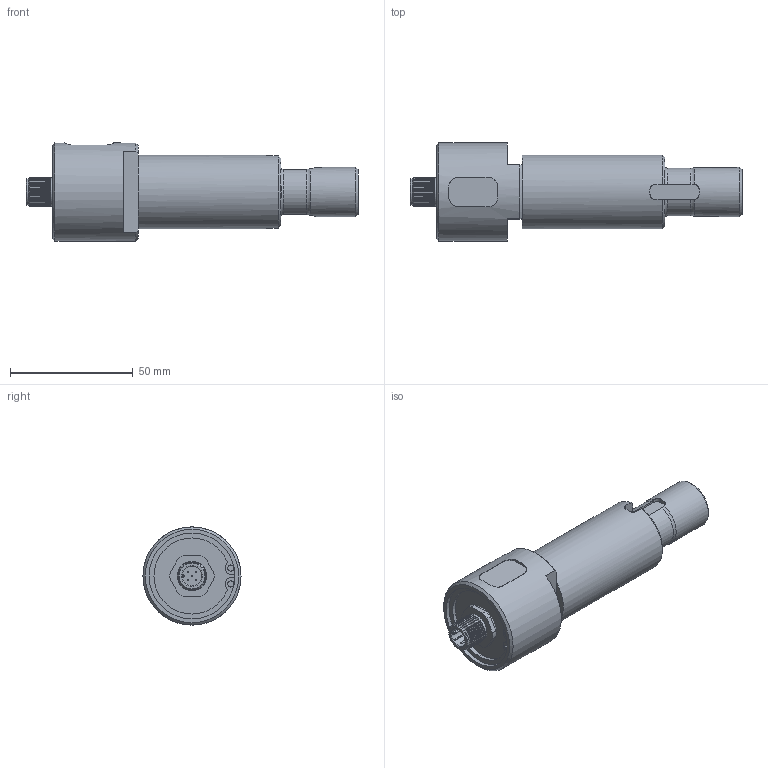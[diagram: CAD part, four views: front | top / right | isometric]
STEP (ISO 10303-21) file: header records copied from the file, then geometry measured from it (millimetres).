
FILE_DESCRIPTION(/* description */ ('Alibre Inc.'),/* implementation_level */ '2;1');
FILE_NAME(/* name */ 'export-40211EBD-F42E-406A-B244-A6ACC50D4103',/* time_stamp */ '2022-04-29T15:53:48+02:00',/* author */ (''),/* organization */ (''),/* preprocessor_version */ 'ST-DEVELOPER v17',/* originating_system */ 'Alibre',/* authorisation */ '');
FILE_SCHEMA (('CONFIG_CONTROL_DESIGN'));
Length unit declared in the file: millimetre
Products named in the file (5): DIN 472 - d1 35 - s 1,5
Bounding box: 135.3 x 40 x 40 mm (x, y, z)
Volume: 218158.8 mm3; surface area: 171804.9 mm2
Topology: 9 solids, 10 shells, 291 faces, 678 edges, 418 vertices
Faces by surface type: plane 120, cylinder 90, cone 75, torus 6
Full cylindrical faces by diameter (mm): 0.5 x10, 8 x2, 10 x1, 11 x1, 11.5 x1, 12 x21, 13 x2, 14.5 x1, 20 x1, 30 x1, 34.5 x1, 35 x2, 37 x1, 40 x1
Entity records: 7804 total; most frequent: CARTESIAN_POINT 1671, ORIENTED_EDGE 1136, DIRECTION 1004, EDGE_CURVE 562, AXIS2_PLACEMENT_3D 430, EDGE_LOOP 418, FACE_BOUND 418, VERTEX_POINT 400
